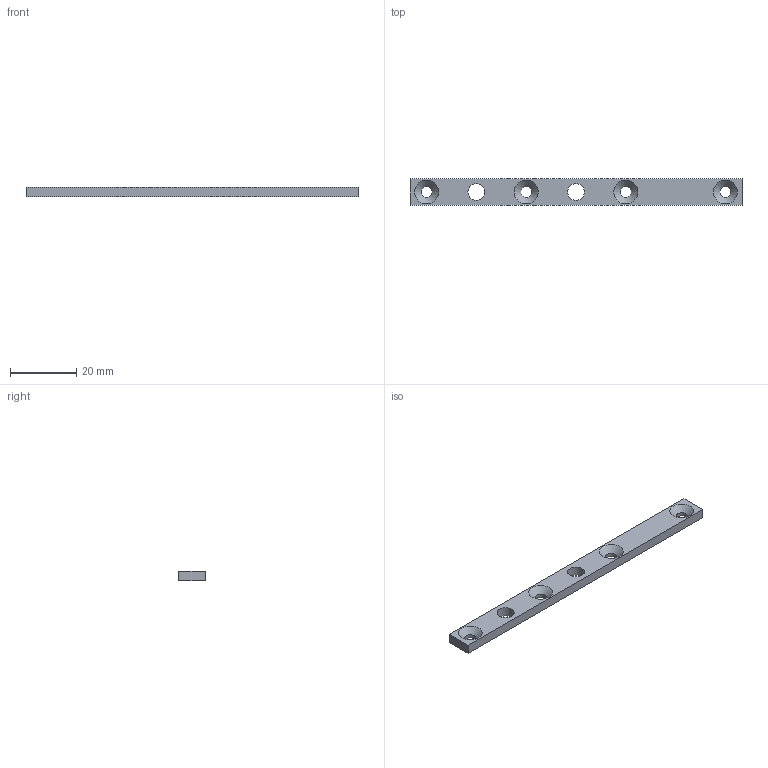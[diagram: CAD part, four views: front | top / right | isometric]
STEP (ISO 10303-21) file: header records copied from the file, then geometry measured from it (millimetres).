
FILE_DESCRIPTION(/* description */ ('Bar'),/* implementation_level */ '2;1');
FILE_NAME(/* name */ 'ITPT.03.00.003.stp',/* time_stamp */ '2025-02-12T14:40:49+01:00',/* author */ ('Rüdiger Widera'),/* organization */ (''),/* preprocessor_version */ 'ST-DEVELOPER v19.2',/* originating_system */ 'Autodesk Inventor 2024',/* authorisation */ '');
FILE_SCHEMA (('AUTOMOTIVE_DESIGN { 1 0 10303 214 3 1 1 }'));
Length unit declared in the file: millimetre
Products named in the file (1): ITPT.03.00.003
Bounding box: 100 x 8 x 3 mm (x, y, z)
Volume: 2062.6 mm3; surface area: 2289.2 mm2
Topology: 1 solids, 1 shells, 16 faces, 38 edges, 24 vertices
Faces by surface type: cylinder 6, plane 6, cone 4
Full cylindrical faces by diameter (mm): 3.4 x4, 5.1 x2
Entity records: 533 total; most frequent: DIRECTION 88, CARTESIAN_POINT 79, ORIENTED_EDGE 76, EDGE_CURVE 38, AXIS2_PLACEMENT_3D 33, EDGE_LOOP 28, VERTEX_POINT 24, LINE 22
